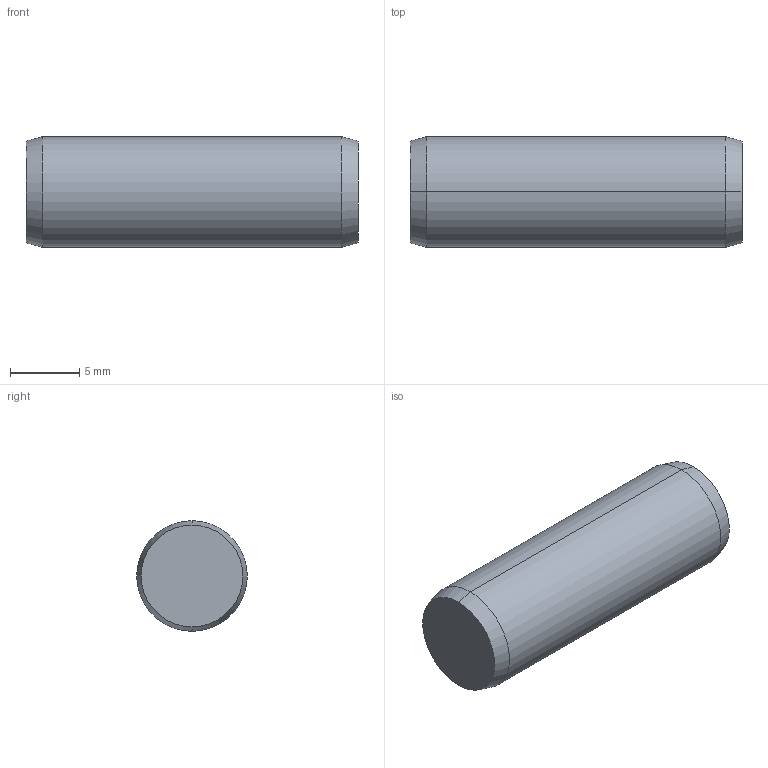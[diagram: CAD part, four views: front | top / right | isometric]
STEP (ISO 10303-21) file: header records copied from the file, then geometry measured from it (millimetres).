
FILE_DESCRIPTION (( 'STEP AP203' ), '1' );
FILE_NAME ('P1206.080-024.step', '2017-06-14T08:26:24', ( 'User' ), ( '' ), 'SwSTEP 2.0', 'SolidWorks 2009', '' );
FILE_SCHEMA (( 'CONFIG_CONTROL_DESIGN' ));
Length unit declared in the file: millimetre
Products named in the file (1): P1206.080-024
Bounding box: 24 x 8 x 8 mm (x, y, z)
Volume: 1196.9 mm3; surface area: 687.8 mm2
Topology: 1 solids, 1 shells, 8 faces, 14 edges, 8 vertices
Faces by surface type: cone 4, cylinder 2, plane 2
Entity records: 271 total; most frequent: DIRECTION 40, CARTESIAN_POINT 31, ORIENTED_EDGE 28, AXIS2_PLACEMENT_3D 17, EDGE_CURVE 14, FACE_OUTER_BOUND 8, CIRCLE 8, PERSON_AND_ORGANIZATION 8
